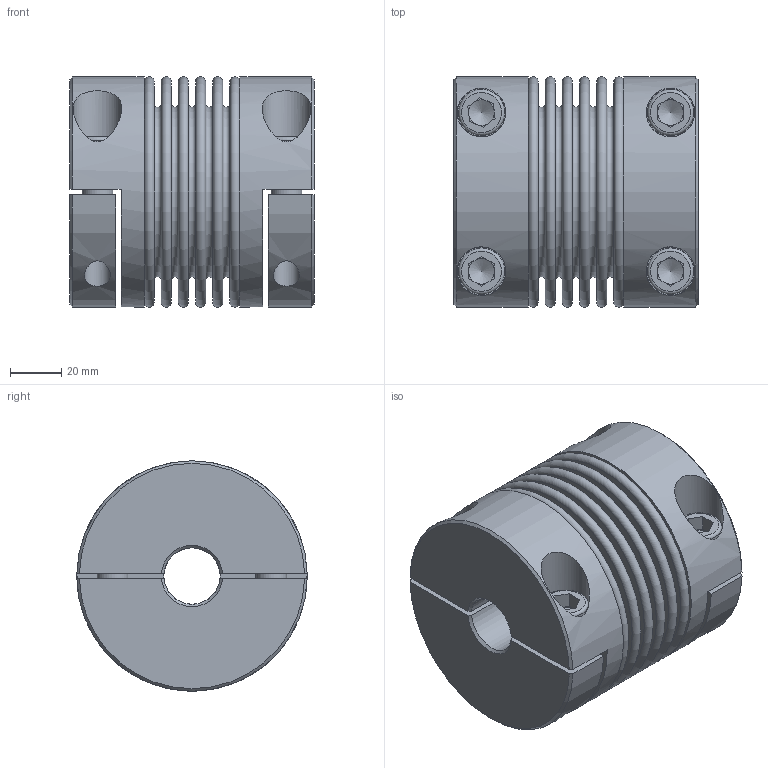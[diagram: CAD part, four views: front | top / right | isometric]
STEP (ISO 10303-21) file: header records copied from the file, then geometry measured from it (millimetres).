
FILE_DESCRIPTION( ( 'Unknown' ), '1' );
FILE_NAME( 'C:/Users/skarpstein/Desktop/KB4HC/KB4HC-200-94.stp', 'Unknown', ( 'Unknown' ), ( 'Unknown' ), 'PSStep 16.0.42', 'Unknown', ' ' );
FILE_SCHEMA( ( 'AUTOMOTIVE_DESIGN { 1 0 10303 214 1 1 1 1 }' ) );
Length unit declared in the file: millimetre
Products named in the file (5): Assem1; KN4HC-200; Socket Head Cap Screw_DIN_DIN 912 M12 x 35 --- 35N_4; BL200_Standard_0
Assembly tree (9 placements, depth 2):
  Assem1
    KN4HC-200  x2
    KN4HC-200  x2
    Socket Head Cap Screw_DIN_DIN 912 M12 x 35 --- 35N_4  x4
    BL200_Standard_0
Bounding box: 95.45 x 90 x 90 mm (x, y, z)
Volume: 339694.7 mm3; surface area: 160389.7 mm2
Topology: 9 solids, 9 shells, 189 faces, 389 edges, 248 vertices
Faces by surface type: plane 108, torus 33, cylinder 32, cone 16
Full cylindrical faces by diameter (mm): 10.106 x4, 12 x4, 12.5 x4, 18 x4, 19 x4, 22 x2, 79.2 x2, 80.4 x2, 90 x2
Entity records: 3644 total; most frequent: CARTESIAN_POINT 756, DIRECTION 442, ORIENTED_EDGE 284, AXIS2_PLACEMENT_3D 201, EDGE_LOOP 182, FACE_OUTER_BOUND 142, EDGE_CURVE 142, VERTEX_POINT 131
